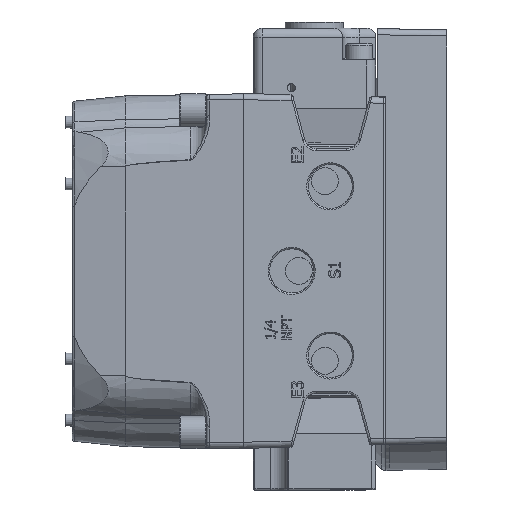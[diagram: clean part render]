
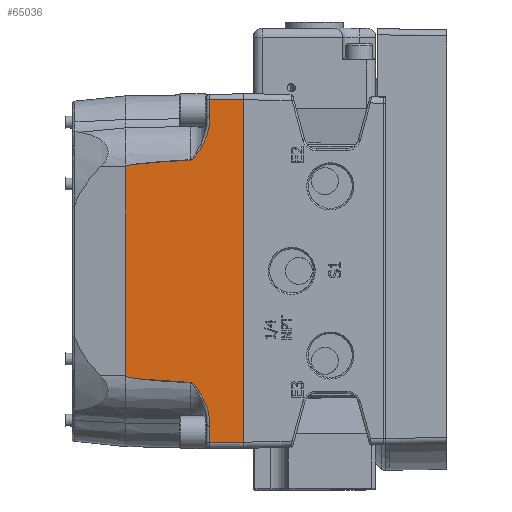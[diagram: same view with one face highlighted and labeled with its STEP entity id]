
A CAD part, left-side view. The second image highlights one B-rep face of the part: STEP entity #65036.
In plain terms, the highlighted planar face has unit normal (-1, 0.018, 0) as drawn and (-1, 0, 0.017) by its records, which use the part's own axes.
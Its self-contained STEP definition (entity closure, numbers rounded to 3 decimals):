
#636=ELLIPSE('',#69911,10.027,0.175);
#638=ELLIPSE('',#69933,10.027,0.175);
#3887=LINE('',#121356,#8422);
#3923=LINE('',#122388,#8458);
#3926=LINE('',#122765,#8461);
#3927=LINE('',#122767,#8462);
#3928=LINE('',#122769,#8463);
#3929=LINE('',#122770,#8464);
#8422=VECTOR('',#81965,2.135);
#8458=VECTOR('',#82183,0.16);
#8461=VECTOR('',#82218,0.16);
#8462=VECTOR('',#82219,0.349);
#8463=VECTOR('',#82220,3.5);
#8464=VECTOR('',#82221,0.349);
#11080=PLANE('',#69932);
#15571=FACE_OUTER_BOUND('',#19527,.T.);
#19527=EDGE_LOOP('',(#53475,#53476,#53477,#53478,#53479,#53480,#53481,#53482,
#53483,#53484,#53485,#53486,#53487,#53488));
#23292=(
BOUNDED_CURVE()
B_SPLINE_CURVE(2,(#122756,#122757,#122758),.UNSPECIFIED.,.F.,.F.)
B_SPLINE_CURVE_WITH_KNOTS((3,3),(9985.359,10057.101),
 .UNSPECIFIED.)
CURVE()
GEOMETRIC_REPRESENTATION_ITEM()
RATIONAL_B_SPLINE_CURVE((535.374,535.402,535.402))
REPRESENTATION_ITEM('')
);
#23293=(
BOUNDED_CURVE()
B_SPLINE_CURVE(2,(#122759,#122760,#122761),.UNSPECIFIED.,.F.,.F.)
B_SPLINE_CURVE_WITH_KNOTS((3,3),(10057.101,10128.843),
 .UNSPECIFIED.)
CURVE()
GEOMETRIC_REPRESENTATION_ITEM()
RATIONAL_B_SPLINE_CURVE((535.402,535.402,535.374))
REPRESENTATION_ITEM('')
);
#25069=B_SPLINE_CURVE_WITH_KNOTS('',3,(#122264,#122265,#122266,#122267,
#122268,#122269,#122270,#122271,#122272,#122273),.UNSPECIFIED.,.F.,.F.,
(4,1,1,1,1,1,1,4),(1.98,2.027,2.073,2.167,
2.355,2.73,3.106,3.293),
 .UNSPECIFIED.);
#25072=B_SPLINE_CURVE_WITH_KNOTS('',3,(#122330,#122331,#122332,#122333,
#122334,#122335,#122336,#122337,#122338),.UNSPECIFIED.,.F.,.F.,(4,1,1,1,
1,1,4),(3.182,3.242,3.302,3.421,
3.66,3.899,4.855),.UNSPECIFIED.);
#25091=B_SPLINE_CURVE_WITH_KNOTS('',3,(#122675,#122676,#122677,#122678,
#122679,#122680,#122681,#122682,#122683),.UNSPECIFIED.,.F.,.F.,(4,1,1,1,
1,1,4),(0.654,1.029,1.405,1.78,
1.874,1.921,1.967),.UNSPECIFIED.);
#25095=B_SPLINE_CURVE_WITH_KNOTS('',3,(#122746,#122747,#122748,#122749,
#122750,#122751,#122752,#122753,#122754),.UNSPECIFIED.,.F.,.F.,(4,1,1,1,
1,1,4),(-4.856,-3.9,-3.66,-3.421,
-3.302,-3.242,-3.182),.UNSPECIFIED.);
#29440=VERTEX_POINT('',#121353);
#29441=VERTEX_POINT('',#121355);
#29533=VERTEX_POINT('',#122261);
#29534=VERTEX_POINT('',#122263);
#29536=VERTEX_POINT('',#122325);
#29539=VERTEX_POINT('',#122355);
#29542=VERTEX_POINT('',#122383);
#29562=VERTEX_POINT('',#122659);
#29563=VERTEX_POINT('',#122674);
#29565=VERTEX_POINT('',#122731);
#29567=VERTEX_POINT('',#122762);
#29568=VERTEX_POINT('',#122764);
#29569=VERTEX_POINT('',#122766);
#29570=VERTEX_POINT('',#122768);
#37730=EDGE_CURVE('',#29441,#29440,#3887,.F.);
#37859=EDGE_CURVE('',#29533,#29534,#25069,.T.);
#37862=EDGE_CURVE('',#29536,#29533,#25072,.T.);
#37867=EDGE_CURVE('',#29534,#29539,#636,.T.);
#37874=EDGE_CURVE('',#29539,#29542,#3923,.T.);
#37901=EDGE_CURVE('',#29562,#29563,#25091,.T.);
#37906=EDGE_CURVE('',#29563,#29565,#25095,.T.);
#37907=EDGE_CURVE('',#29536,#29441,#23292,.T.);
#37908=EDGE_CURVE('',#29565,#29440,#23293,.F.);
#37909=EDGE_CURVE('',#29567,#29562,#638,.T.);
#37910=EDGE_CURVE('',#29568,#29567,#3926,.T.);
#37911=EDGE_CURVE('',#29569,#29568,#3927,.T.);
#37912=EDGE_CURVE('',#29570,#29569,#3928,.T.);
#37913=EDGE_CURVE('',#29570,#29542,#3929,.T.);
#53475=ORIENTED_EDGE('',*,*,#37862,.F.);
#53476=ORIENTED_EDGE('',*,*,#37907,.T.);
#53477=ORIENTED_EDGE('',*,*,#37730,.T.);
#53478=ORIENTED_EDGE('',*,*,#37908,.F.);
#53479=ORIENTED_EDGE('',*,*,#37906,.F.);
#53480=ORIENTED_EDGE('',*,*,#37901,.F.);
#53481=ORIENTED_EDGE('',*,*,#37909,.F.);
#53482=ORIENTED_EDGE('',*,*,#37910,.F.);
#53483=ORIENTED_EDGE('',*,*,#37911,.F.);
#53484=ORIENTED_EDGE('',*,*,#37912,.F.);
#53485=ORIENTED_EDGE('',*,*,#37913,.T.);
#53486=ORIENTED_EDGE('',*,*,#37874,.F.);
#53487=ORIENTED_EDGE('',*,*,#37867,.F.);
#53488=ORIENTED_EDGE('',*,*,#37859,.F.);
#65036=ADVANCED_FACE('',(#15571),#11080,.T.);
#69911=AXIS2_PLACEMENT_3D('',#122356,#82168,#82169);
#69932=AXIS2_PLACEMENT_3D('',#122755,#82214,#82215);
#69933=AXIS2_PLACEMENT_3D('',#122763,#82216,#82217);
#81965=DIRECTION('',(0.,-1.,0.));
#82168=DIRECTION('center_axis',(-1.,0.,0.017));
#82169=DIRECTION('ref_axis',(-0.017,0.,-1.));
#82183=DIRECTION('',(0.,-1.,0.));
#82214=DIRECTION('center_axis',(-1.,0.,0.017));
#82215=DIRECTION('ref_axis',(0.017,0.,1.));
#82216=DIRECTION('center_axis',(-1.,0.,0.017));
#82217=DIRECTION('ref_axis',(-0.017,0.,-1.));
#82218=DIRECTION('',(0.,-1.,0.));
#82219=DIRECTION('',(0.017,0.,1.));
#82220=DIRECTION('',(0.,1.,0.));
#82221=DIRECTION('',(0.017,0.,1.));
#121353=CARTESIAN_POINT('',(-3.085,1.067,1.202));
#121355=CARTESIAN_POINT('',(-3.085,-1.067,1.202));
#121356=CARTESIAN_POINT('',(-3.085,-0.341,1.202));
#122261=CARTESIAN_POINT('',(-3.096,-1.135,0.546));
#122263=CARTESIAN_POINT('',(-3.099,-1.59,0.353));
#122264=CARTESIAN_POINT('Ctrl Pts',(-3.096,-1.135,
0.546));
#122265=CARTESIAN_POINT('Ctrl Pts',(-3.096,-1.135,
0.54));
#122266=CARTESIAN_POINT('Ctrl Pts',(-3.096,-1.14,
0.528));
#122267=CARTESIAN_POINT('Ctrl Pts',(-3.097,-1.155,
0.509));
#122268=CARTESIAN_POINT('Ctrl Pts',(-3.097,-1.188,
0.48));
#122269=CARTESIAN_POINT('Ctrl Pts',(-3.098,-1.259,
0.431));
#122270=CARTESIAN_POINT('Ctrl Pts',(-3.099,-1.369,
0.374));
#122271=CARTESIAN_POINT('Ctrl Pts',(-3.099,-1.491,
0.346));
#122272=CARTESIAN_POINT('Ctrl Pts',(-3.099,-1.566,
0.349));
#122273=CARTESIAN_POINT('Ctrl Pts',(-3.099,-1.59,0.353));
#122325=CARTESIAN_POINT('',(-3.085,-1.073,1.201));
#122330=CARTESIAN_POINT('Ctrl Pts',(-3.085,-1.073,
1.201));
#122331=CARTESIAN_POINT('Ctrl Pts',(-3.085,-1.077,
1.195));
#122332=CARTESIAN_POINT('Ctrl Pts',(-3.085,-1.081,
1.179));
#122333=CARTESIAN_POINT('Ctrl Pts',(-3.085,-1.087,
1.149));
#122334=CARTESIAN_POINT('Ctrl Pts',(-3.086,-1.095,
1.094));
#122335=CARTESIAN_POINT('Ctrl Pts',(-3.088,-1.104,
1.016));
#122336=CARTESIAN_POINT('Ctrl Pts',(-3.091,-1.119,
0.828));
#122337=CARTESIAN_POINT('Ctrl Pts',(-3.094,-1.128,
0.672));
#122338=CARTESIAN_POINT('Ctrl Pts',(-3.096,-1.135,
0.546));
#122355=CARTESIAN_POINT('',(-3.099,-1.59,0.349));
#122356=CARTESIAN_POINT('Origin',(-2.933,-1.645,9.883));
#122383=CARTESIAN_POINT('',(-3.099,-1.75,0.349));
#122388=CARTESIAN_POINT('',(-3.099,-1.662,0.349));
#122659=CARTESIAN_POINT('',(-3.099,1.59,0.353));
#122674=CARTESIAN_POINT('',(-3.096,1.135,0.546));
#122675=CARTESIAN_POINT('Ctrl Pts',(-3.099,1.59,
0.353));
#122676=CARTESIAN_POINT('Ctrl Pts',(-3.099,1.541,
0.345));
#122677=CARTESIAN_POINT('Ctrl Pts',(-3.099,1.441,
0.352));
#122678=CARTESIAN_POINT('Ctrl Pts',(-3.098,1.302,
0.406));
#122679=CARTESIAN_POINT('Ctrl Pts',(-3.097,1.206,
0.464));
#122680=CARTESIAN_POINT('Ctrl Pts',(-3.097,1.155,
0.509));
#122681=CARTESIAN_POINT('Ctrl Pts',(-3.096,1.14,
0.528));
#122682=CARTESIAN_POINT('Ctrl Pts',(-3.096,1.135,
0.54));
#122683=CARTESIAN_POINT('Ctrl Pts',(-3.096,1.135,
0.546));
#122731=CARTESIAN_POINT('',(-3.085,1.073,1.201));
#122746=CARTESIAN_POINT('Ctrl Pts',(-3.096,1.135,
0.546));
#122747=CARTESIAN_POINT('Ctrl Pts',(-3.094,1.128,
0.672));
#122748=CARTESIAN_POINT('Ctrl Pts',(-3.091,1.119,
0.829));
#122749=CARTESIAN_POINT('Ctrl Pts',(-3.088,1.104,
1.016));
#122750=CARTESIAN_POINT('Ctrl Pts',(-3.086,1.095,
1.094));
#122751=CARTESIAN_POINT('Ctrl Pts',(-3.085,1.087,
1.149));
#122752=CARTESIAN_POINT('Ctrl Pts',(-3.085,1.081,
1.179));
#122753=CARTESIAN_POINT('Ctrl Pts',(-3.085,1.077,
1.195));
#122754=CARTESIAN_POINT('Ctrl Pts',(-3.085,1.073,
1.201));
#122755=CARTESIAN_POINT('Origin',(-3.106,-1.75,0.));
#122756=CARTESIAN_POINT('Ctrl Pts',(-3.085,-1.073,
1.201));
#122757=CARTESIAN_POINT('Ctrl Pts',(-3.085,-1.07,
1.202));
#122758=CARTESIAN_POINT('Ctrl Pts',(-3.085,-1.067,
1.202));
#122759=CARTESIAN_POINT('Ctrl Pts',(-3.085,1.067,1.202));
#122760=CARTESIAN_POINT('Ctrl Pts',(-3.085,1.07,
1.202));
#122761=CARTESIAN_POINT('Ctrl Pts',(-3.085,1.073,
1.201));
#122762=CARTESIAN_POINT('',(-3.099,1.59,0.349));
#122763=CARTESIAN_POINT('Origin',(-2.933,1.645,9.883));
#122764=CARTESIAN_POINT('',(-3.099,1.75,0.349));
#122765=CARTESIAN_POINT('',(-3.099,-0.088,0.349));
#122766=CARTESIAN_POINT('',(-3.106,1.75,0.));
#122767=CARTESIAN_POINT('',(-3.106,1.75,0.));
#122768=CARTESIAN_POINT('',(-3.106,-1.75,0.));
#122769=CARTESIAN_POINT('',(-3.106,-1.75,0.));
#122770=CARTESIAN_POINT('',(-3.106,-1.75,0.));
